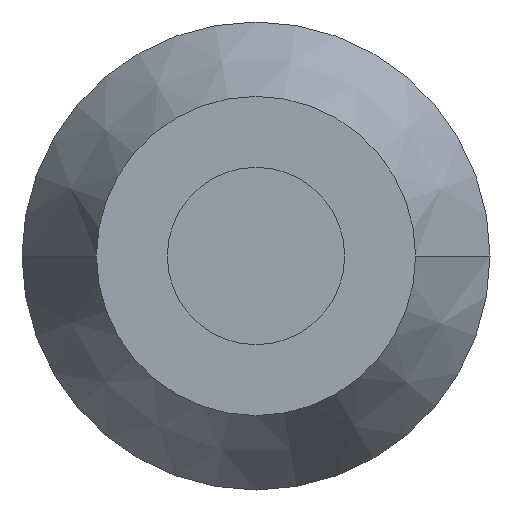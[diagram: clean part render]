
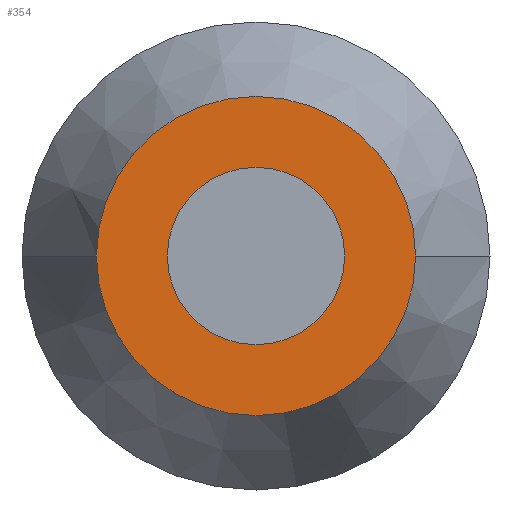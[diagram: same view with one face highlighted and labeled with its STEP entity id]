
A CAD part, front view. The second image highlights one B-rep face of the part: STEP entity #354.
In plain terms, the highlighted planar face has unit normal (0, -1, 0).
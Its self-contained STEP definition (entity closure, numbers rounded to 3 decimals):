
#18=CARTESIAN_POINT('',(0.,0.,0.));
#19=DIRECTION('',(0.,-1.,0.));
#20=DIRECTION('',(1.,0.,0.));
#21=AXIS2_PLACEMENT_3D('',#18,#19,#20);
#27=CARTESIAN_POINT('',(0.,0.,0.));
#28=DIRECTION('',(0.,-1.,0.));
#29=DIRECTION('',(-1.,0.,0.));
#30=AXIS2_PLACEMENT_3D('',#27,#28,#29);
#35=CARTESIAN_POINT('',(0.,0.,0.));
#36=DIRECTION('',(0.,-1.,0.));
#37=DIRECTION('',(1.,0.,0.));
#38=AXIS2_PLACEMENT_3D('',#35,#36,#37);
#57=CARTESIAN_POINT('',(0.,0.,0.));
#58=DIRECTION('',(0.,1.,0.));
#59=DIRECTION('',(1.,0.,0.));
#60=AXIS2_PLACEMENT_3D('',#57,#58,#59);
#307=CARTESIAN_POINT('',(2.25,0.,0.));
#309=VERTEX_POINT('',#307);
#315=CARTESIAN_POINT('',(-2.25,0.,0.));
#317=VERTEX_POINT('',#315);
#331=CARTESIAN_POINT('',(1.25,0.,0.));
#332=CARTESIAN_POINT('',(-1.25,0.,0.));
#333=VERTEX_POINT('',#331);
#334=VERTEX_POINT('',#332);
#337=CARTESIAN_POINT('',(0.,0.,0.));
#338=DIRECTION('',(0.,-1.,0.));
#339=DIRECTION('',(-1.,0.,0.));
#340=AXIS2_PLACEMENT_3D('',#337,#338,#339);
#341=PLANE('',#340);
#343=ORIENTED_EDGE('',*,*,#342,.F.);
#345=ORIENTED_EDGE('',*,*,#344,.T.);
#346=EDGE_LOOP('',(#343,#345));
#347=FACE_OUTER_BOUND('',#346,.F.);
#349=ORIENTED_EDGE('',*,*,#348,.T.);
#351=ORIENTED_EDGE('',*,*,#350,.T.);
#352=EDGE_LOOP('',(#349,#351));
#353=FACE_BOUND('',#352,.F.);
#22=CIRCLE('',#21,1.25);
#31=CIRCLE('',#30,1.25);
#39=CIRCLE('',#38,2.25);
#61=CIRCLE('',#60,2.25);
#342=EDGE_CURVE('',#309,#317,#39,.T.);
#344=EDGE_CURVE('',#309,#317,#61,.T.);
#348=EDGE_CURVE('',#333,#334,#22,.T.);
#350=EDGE_CURVE('',#334,#333,#31,.T.);
#354=ADVANCED_FACE('',(#347,#353),#341,.T.);
